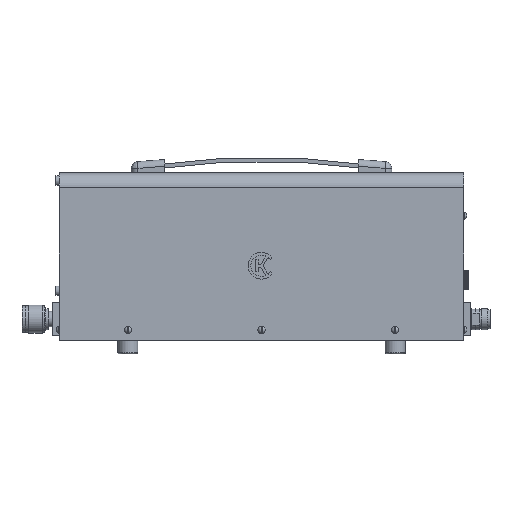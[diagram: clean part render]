
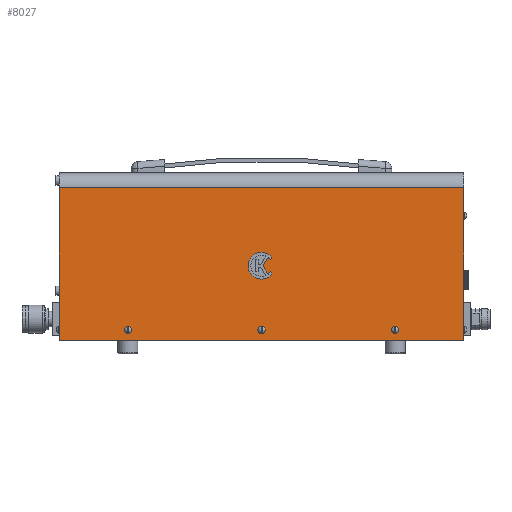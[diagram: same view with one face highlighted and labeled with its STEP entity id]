
A CAD part, left-side view. The second image highlights one B-rep face of the part: STEP entity #8027.
In plain terms, the highlighted planar face has unit normal (-1, 0, 0).
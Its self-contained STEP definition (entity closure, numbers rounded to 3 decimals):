
#8027=ADVANCED_FACE('',(#57423,#57425,#57427,#57429,#57431),#57433,.T.);
#57423=FACE_BOUND('',#57424,.T.);
#57424=EDGE_LOOP('',(#97758,#97759,#97760,#97761));
#57425=FACE_BOUND('',#57426,.T.);
#57426=EDGE_LOOP('',(#97762,#97763,#97764,#97765,#97766,#97767,#97768));
#57427=FACE_BOUND('',#57428,.T.);
#57428=EDGE_LOOP('',(#97769));
#57429=FACE_BOUND('',#57430,.T.);
#57430=EDGE_LOOP('',(#97770));
#57431=FACE_BOUND('',#57432,.T.);
#57432=EDGE_LOOP('',(#97771));
#57433=PLANE('',#57434);
#57434=AXIS2_PLACEMENT_3D('',#57435,#57436,#57437);
#57435=CARTESIAN_POINT('',(-56.,0.,119.836));
#57436=DIRECTION('',(-1.,0.,0.));
#57437=DIRECTION('',(0.,0.,-1.));
#97758=ORIENTED_EDGE('',*,*,#127436,.T.);
#97759=ORIENTED_EDGE('',*,*,#127444,.T.);
#97760=ORIENTED_EDGE('',*,*,#127445,.T.);
#97761=ORIENTED_EDGE('',*,*,#127446,.T.);
#97762=ORIENTED_EDGE('',*,*,#127447,.T.);
#97763=ORIENTED_EDGE('',*,*,#127448,.T.);
#97764=ORIENTED_EDGE('',*,*,#127449,.T.);
#97765=ORIENTED_EDGE('',*,*,#127450,.T.);
#97766=ORIENTED_EDGE('',*,*,#127451,.T.);
#97767=ORIENTED_EDGE('',*,*,#127452,.T.);
#97768=ORIENTED_EDGE('',*,*,#127453,.T.);
#97769=ORIENTED_EDGE('',*,*,#127454,.T.);
#97770=ORIENTED_EDGE('',*,*,#127455,.T.);
#97771=ORIENTED_EDGE('',*,*,#127456,.T.);
#127436=EDGE_CURVE('',#144051,#144052,#144053,.T.);
#127444=EDGE_CURVE('',#144052,#144063,#144064,.T.);
#127445=EDGE_CURVE('',#144063,#144065,#144066,.T.);
#127446=EDGE_CURVE('',#144065,#144051,#144067,.T.);
#127447=EDGE_CURVE('',#144068,#144069,#144070,.F.);
#127448=EDGE_CURVE('',#144069,#144071,#144072,.F.);
#127449=EDGE_CURVE('',#144071,#144073,#144074,.F.);
#127450=EDGE_CURVE('',#144073,#144075,#144076,.F.);
#127451=EDGE_CURVE('',#144075,#144077,#144078,.F.);
#127452=EDGE_CURVE('',#144077,#144079,#144080,.F.);
#127453=EDGE_CURVE('',#144079,#144068,#144081,.F.);
#127454=EDGE_CURVE('',#144082,#144082,#144083,.F.);
#127455=EDGE_CURVE('',#144084,#144084,#144085,.F.);
#127456=EDGE_CURVE('',#144086,#144086,#144087,.F.);
#144051=VERTEX_POINT('',#179658);
#144052=VERTEX_POINT('',#179659);
#144053=LINE('',#179660,#179661);
#144063=VERTEX_POINT('',#179690);
#144064=LINE('',#179691,#179692);
#144065=VERTEX_POINT('',#179694);
#144066=LINE('',#179695,#179696);
#144067=LINE('',#179698,#179699);
#144068=VERTEX_POINT('',#179701);
#144069=VERTEX_POINT('',#179702);
#144070=CIRCLE('',#179703,8.);
#144071=VERTEX_POINT('',#179707);
#144072=LINE('',#179708,#179709);
#144073=VERTEX_POINT('',#179711);
#144074=CIRCLE('',#179712,10.);
#144075=VERTEX_POINT('',#179716);
#144076=LINE('',#179717,#179718);
#144077=VERTEX_POINT('',#179720);
#144078=CIRCLE('',#179721,8.);
#144079=VERTEX_POINT('',#179725);
#144080=LINE('',#179726,#179727);
#144081=LINE('',#179729,#179730);
#144082=VERTEX_POINT('',#179732);
#144083=CIRCLE('',#179733,1.75);
#144084=VERTEX_POINT('',#179737);
#144085=CIRCLE('',#179738,1.75);
#144086=VERTEX_POINT('',#179742);
#144087=CIRCLE('',#179743,1.75);
#179658=CARTESIAN_POINT('',(-56.,-151.5,58.5));
#179659=CARTESIAN_POINT('',(-56.,151.5,58.5));
#179660=CARTESIAN_POINT('',(-56.,-151.5,58.5));
#179661=VECTOR('',#179662,1.);
#179662=DIRECTION('',(0.,1.,0.));
#179690=CARTESIAN_POINT('',(-56.,151.5,-56.));
#179691=CARTESIAN_POINT('',(-56.,151.5,58.5));
#179692=VECTOR('',#179693,1.);
#179693=DIRECTION('',(0.,0.,-1.));
#179694=CARTESIAN_POINT('',(-56.,-151.5,-56.));
#179695=CARTESIAN_POINT('',(-56.,151.5,-56.));
#179696=VECTOR('',#179697,1.);
#179697=DIRECTION('',(0.,-1.,0.));
#179698=CARTESIAN_POINT('',(-56.,-151.5,-56.));
#179699=VECTOR('',#179700,1.);
#179700=DIRECTION('',(0.,0.,1.));
#179701=CARTESIAN_POINT('',(-56.,-4.835,-6.374));
#179702=CARTESIAN_POINT('',(-56.,-6.69,-4.387));
#179703=AXIS2_PLACEMENT_3D('',#179704,#179705,#179706);
#179704=CARTESIAN_POINT('',(-56.,0.,0.));
#179705=DIRECTION('',(1.,0.,0.));
#179706=DIRECTION('',(0.,-0.836,-0.548));
#179707=CARTESIAN_POINT('',(-56.,-7.782,-6.28));
#179708=CARTESIAN_POINT('',(-56.,-7.782,-6.28));
#179709=VECTOR('',#179710,1.);
#179710=DIRECTION('',(0.,0.5,0.866));
#179711=CARTESIAN_POINT('',(-56.,-7.782,6.28));
#179712=AXIS2_PLACEMENT_3D('',#179713,#179714,#179715);
#179713=CARTESIAN_POINT('',(-56.,0.,0.));
#179714=DIRECTION('',(-1.,0.,0.));
#179715=DIRECTION('',(0.,-0.778,0.628));
#179716=CARTESIAN_POINT('',(-56.,-6.69,4.387));
#179717=CARTESIAN_POINT('',(-56.,-6.69,4.387));
#179718=VECTOR('',#179719,1.);
#179719=DIRECTION('',(0.,-0.5,0.866));
#179720=CARTESIAN_POINT('',(-56.,-4.835,6.374));
#179721=AXIS2_PLACEMENT_3D('',#179722,#179723,#179724);
#179722=CARTESIAN_POINT('',(-56.,0.,0.));
#179723=DIRECTION('',(1.,0.,0.));
#179724=DIRECTION('',(0.,-0.604,0.797));
#179725=CARTESIAN_POINT('',(-56.,-1.155,0.));
#179726=CARTESIAN_POINT('',(-56.,-1.155,0.));
#179727=VECTOR('',#179728,1.);
#179728=DIRECTION('',(0.,-0.5,0.866));
#179729=CARTESIAN_POINT('',(-56.,-4.835,-6.374));
#179730=VECTOR('',#179731,1.);
#179731=DIRECTION('',(0.,0.5,0.866));
#179732=CARTESIAN_POINT('',(-56.,-101.75,-48.));
#179733=AXIS2_PLACEMENT_3D('',#179734,#179735,#179736);
#179734=CARTESIAN_POINT('',(-56.,-100.,-48.));
#179735=DIRECTION('',(-1.,0.,0.));
#179736=DIRECTION('',(0.,-1.,0.));
#179737=CARTESIAN_POINT('',(-56.,-1.75,-48.));
#179738=AXIS2_PLACEMENT_3D('',#179739,#179740,#179741);
#179739=CARTESIAN_POINT('',(-56.,0.,-48.));
#179740=DIRECTION('',(-1.,0.,0.));
#179741=DIRECTION('',(0.,-1.,0.));
#179742=CARTESIAN_POINT('',(-56.,98.25,-48.));
#179743=AXIS2_PLACEMENT_3D('',#179744,#179745,#179746);
#179744=CARTESIAN_POINT('',(-56.,100.,-48.));
#179745=DIRECTION('',(-1.,0.,0.));
#179746=DIRECTION('',(0.,-1.,0.));
